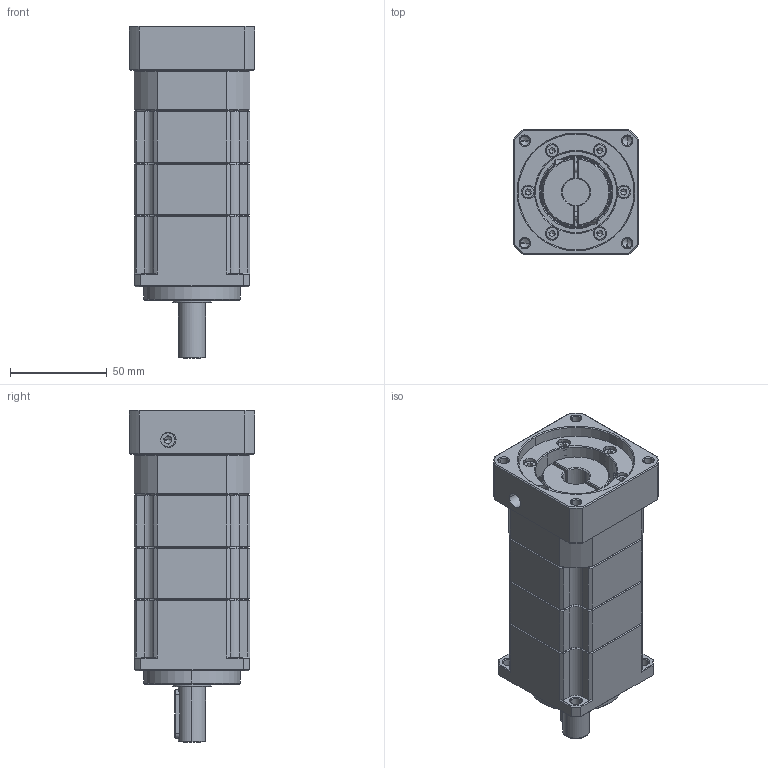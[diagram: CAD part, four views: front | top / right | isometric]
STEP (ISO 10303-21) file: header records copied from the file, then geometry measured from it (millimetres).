
FILE_DESCRIPTION (( 'STEP AP214' ), '1' );
FILE_NAME ('ZPB060-D14-L3-P1-14-60-75-M6.step', '2024-04-23T15:40:39', ( 'Windows 蚚誧' ), ( 'Organization' ), 'SwSTEP 2.0', 'SolidWorks 2016', '' );
FILE_SCHEMA (( 'AUTOMOTIVE_DESIGN' ));
Length unit declared in the file: millimetre
Products named in the file (1): ZPB060-D14-L3-P1-14-60-75-M6
Bounding box: 65 x 65 x 172 mm (x, y, z)
Volume: 420585.6 mm3; surface area: 90003.5 mm2
Topology: 17 solids, 25 shells, 2202 faces, 6059 edges, 3874 vertices
Faces by surface type: plane 1130, bspline 373, cylinder 329, cone 228, torus 96, sphere 46
Entity records: 113173 total; most frequent: CARTESIAN_POINT 36476, ORIENTED_EDGE 11780, DIRECTION 9350, EDGE_CURVE 5890, VERTEX_POINT 3805, VECTOR 3500, LINE 3500, AXIS2_PLACEMENT_3D 2925
